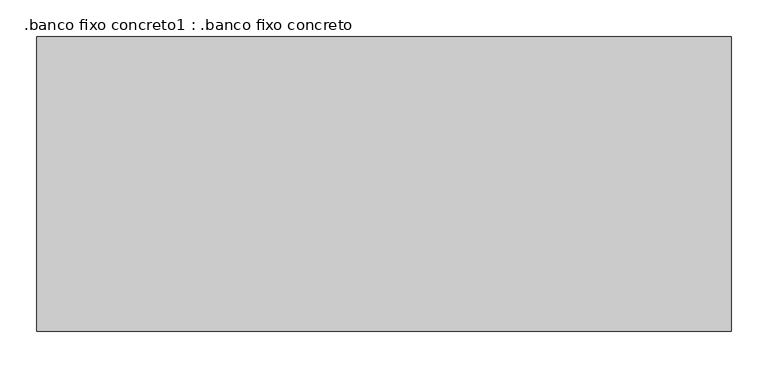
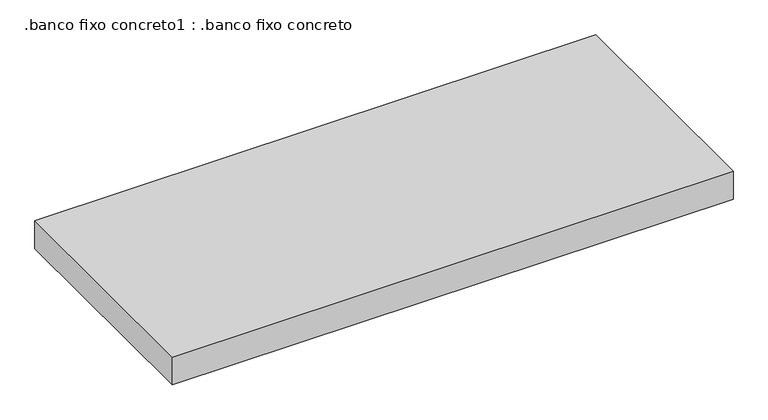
"""IFC4 building model written with IfcOpenShell, lengths in millimetres: proxy geometry, .banco fixo concreto1 : .banco fixo concreto."""

from ifc_helpers import new_model, si_unit, frame, origin, place, context, project, spatial, polyline, outline, extrude, source, transform, mapped, element, save


def banco_fixo_concreto1_banco_fixo_concreto_1cb96b60(model_context):
    return source(origin(), model_context, "Body", "SweptSolid", [
        extrude(outline(polyline([(-3667.2739616, -20664.5871375), (-3667.2739616, -20261.7308527), (-2717.2739616, -20261.7308527), (-2717.2739616, -20664.5871375), (-3667.2739616, -20664.5871375)])), frame((0.0, 0.0, 500.0), z_axis=(0.0, 0.0, 1.0), x_axis=(1.0, 0.0, 0.0)), (0.0, 0.0, 1.0), 50.0),
    ])


if __name__ == "__main__":
    model = new_model("IFC4")
    model_context = context("Model", 3, world=origin())
    ifc_project = project(units=[si_unit("LENGTHUNIT", "METRE", prefix="MILLI")], contexts=[model_context])
    site = spatial("IfcSite", under=ifc_project)
    building = spatial("IfcBuilding", under=site)
    placement = place(None, origin())
    banco_fixo_concreto1_banco_fixo_concreto_shape = banco_fixo_concreto1_banco_fixo_concreto_1cb96b60(model_context)
    element("IfcBuildingElementProxy", 1, Name=".banco fixo concreto1 : .banco fixo concreto", ObjectType=".banco fixo concreto1 : .banco fixo concreto", at=placement, inside=building, context=model_context, shape_type="MappedRepresentation", body=[
        mapped(banco_fixo_concreto1_banco_fixo_concreto_shape, transform((0.0, 0.0, 0.0), x_axis=(1.0, 0.0, 0.0), y_axis=(0.0, 1.0, 0.0), z_axis=(0.0, 0.0, 1.0))),
    ])
    save(model, "model.ifc")
